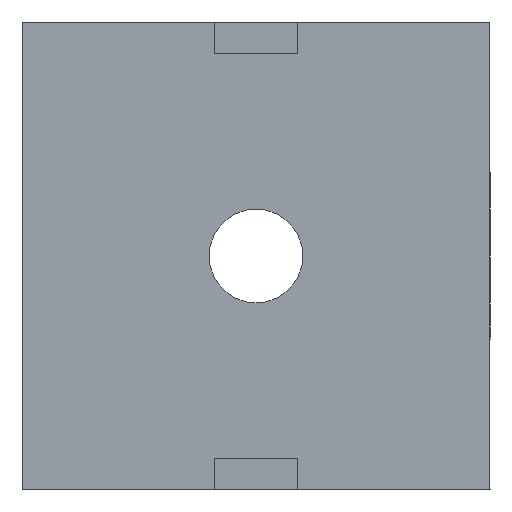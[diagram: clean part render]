
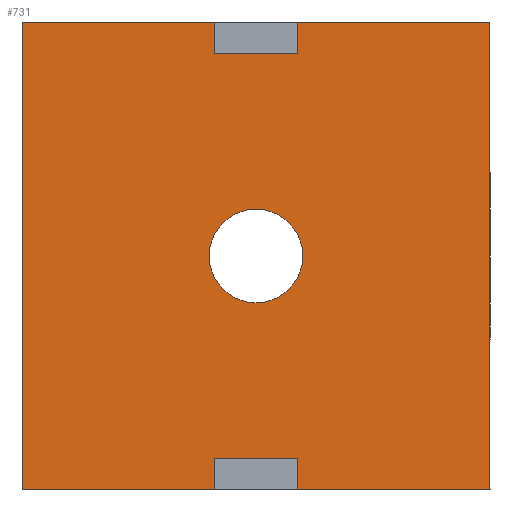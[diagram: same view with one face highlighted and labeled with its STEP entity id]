
A CAD part, front view. The second image highlights one B-rep face of the part: STEP entity #731.
In plain terms, the highlighted planar face has unit normal (0, -1, 0).
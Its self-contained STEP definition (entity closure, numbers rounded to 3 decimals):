
#448 = EDGE_CURVE ( 'NONE', #508, #511, #1732, .T. ) ;
#449 = VERTEX_POINT ( 'NONE', #1684 ) ;
#454 = VERTEX_POINT ( 'NONE', #1719 ) ;
#457 = EDGE_CURVE ( 'NONE', #449, #454, #1715, .T. ) ;
#471 = EDGE_CURVE ( 'NONE', #454, #449, #1763, .T. ) ;
#487 = VERTEX_POINT ( 'NONE', #1794 ) ;
#489 = EDGE_CURVE ( 'NONE', #490, #487, #1781, .T. ) ;
#490 = VERTEX_POINT ( 'NONE', #1783 ) ;
#508 = VERTEX_POINT ( 'NONE', #1815 ) ;
#511 = VERTEX_POINT ( 'NONE', #1809 ) ;
#520 = VERTEX_POINT ( 'NONE', #1858 ) ;
#524 = EDGE_CURVE ( 'NONE', #528, #520, #1849, .T. ) ;
#528 = VERTEX_POINT ( 'NONE', #1850 ) ;
#556 = EDGE_CURVE ( 'NONE', #581, #574, #1947, .T. ) ;
#559 = VERTEX_POINT ( 'NONE', #1948 ) ;
#574 = VERTEX_POINT ( 'NONE', #1989 ) ;
#581 = VERTEX_POINT ( 'NONE', #1973 ) ;
#585 = VERTEX_POINT ( 'NONE', #1970 ) ;
#623 = EDGE_CURVE ( 'NONE', #559, #585, #1992, .T. ) ;
#630 = VERTEX_POINT ( 'NONE', #2038 ) ;
#631 = VERTEX_POINT ( 'NONE', #2046 ) ;
#659 = EDGE_LOOP ( 'NONE', ( #661, #660, #689, #662, #718, #663, #722, #719, #724, #723, #728, #725 ) ) ;
#660 = ORIENTED_EDGE ( 'NONE', *, *, #524, .F. ) ;
#661 = ORIENTED_EDGE ( 'NONE', *, *, #672, .T. ) ;
#662 = ORIENTED_EDGE ( 'NONE', *, *, #556, .T. ) ;
#663 = ORIENTED_EDGE ( 'NONE', *, *, #623, .F. ) ;
#664 = EDGE_CURVE ( 'NONE', #490, #559, #2094, .T. ) ;
#666 = EDGE_CURVE ( 'NONE', #574, #585, #2144, .T. ) ;
#668 = EDGE_LOOP ( 'NONE', ( #674, #730 ) ) ;
#669 = EDGE_CURVE ( 'NONE', #631, #630, #2133, .T. ) ;
#672 = EDGE_CURVE ( 'NONE', #630, #520, #2125, .T. ) ;
#674 = ORIENTED_EDGE ( 'NONE', *, *, #471, .F. ) ;
#689 = ORIENTED_EDGE ( 'NONE', *, *, #732, .F. ) ;
#718 = ORIENTED_EDGE ( 'NONE', *, *, #666, .T. ) ;
#719 = ORIENTED_EDGE ( 'NONE', *, *, #489, .T. ) ;
#720 = EDGE_CURVE ( 'NONE', #487, #511, #2170, .T. ) ;
#721 = EDGE_CURVE ( 'NONE', #631, #508, #2204, .T. ) ;
#722 = ORIENTED_EDGE ( 'NONE', *, *, #664, .F. ) ;
#723 = ORIENTED_EDGE ( 'NONE', *, *, #448, .F. ) ;
#724 = ORIENTED_EDGE ( 'NONE', *, *, #720, .T. ) ;
#725 = ORIENTED_EDGE ( 'NONE', *, *, #669, .T. ) ;
#728 = ORIENTED_EDGE ( 'NONE', *, *, #721, .F. ) ;
#730 = ORIENTED_EDGE ( 'NONE', *, *, #457, .F. ) ;
#731 = ADVANCED_FACE ( 'NONE', ( #2207, #2154 ), #2199, .F. ) ;
#732 = EDGE_CURVE ( 'NONE', #581, #528, #2196, .T. ) ;
#1684 = CARTESIAN_POINT ( 'NONE',  ( -4.5, 0., 0. ) ) ;
#1715 = CIRCLE ( 'NONE', #1734, 4.5 ) ;
#1717 = CARTESIAN_POINT ( 'NONE',  ( 0., 0., 0. ) ) ;
#1719 = CARTESIAN_POINT ( 'NONE',  ( 4.5, 0., 0. ) ) ;
#1729 = DIRECTION ( 'NONE',  ( 0., 0., -1. ) ) ;
#1730 = VECTOR ( 'NONE', #1729, 1000. ) ;
#1731 = CARTESIAN_POINT ( 'NONE',  ( -4., 0., 22.5 ) ) ;
#1732 = LINE ( 'NONE', #1731, #1730 ) ;
#1734 = AXIS2_PLACEMENT_3D ( 'NONE', #1717, #1772, #1771 ) ;
#1743 = DIRECTION ( 'NONE',  ( 1., 0., 0. ) ) ;
#1750 = DIRECTION ( 'NONE',  ( 0., -1., 0. ) ) ;
#1754 = AXIS2_PLACEMENT_3D ( 'NONE', #1765, #1750, #1743 ) ;
#1763 = CIRCLE ( 'NONE', #1754, 4.5 ) ;
#1765 = CARTESIAN_POINT ( 'NONE',  ( 0., 0., 0. ) ) ;
#1771 = DIRECTION ( 'NONE',  ( 1., 0., 0. ) ) ;
#1772 = DIRECTION ( 'NONE',  ( 0., -1., 0. ) ) ;
#1779 = DIRECTION ( 'NONE',  ( 0., 0., -1. ) ) ;
#1780 = VECTOR ( 'NONE', #1779, 1000. ) ;
#1781 = LINE ( 'NONE', #1784, #1780 ) ;
#1783 = CARTESIAN_POINT ( 'NONE',  ( 4., 0., 22.5 ) ) ;
#1784 = CARTESIAN_POINT ( 'NONE',  ( 4., 0., 22.5 ) ) ;
#1794 = CARTESIAN_POINT ( 'NONE',  ( 4., 0., 19.5 ) ) ;
#1809 = CARTESIAN_POINT ( 'NONE',  ( -4., 0., 19.5 ) ) ;
#1815 = CARTESIAN_POINT ( 'NONE',  ( -4., 0., 22.5 ) ) ;
#1842 = DIRECTION ( 'NONE',  ( 0., 0., -1. ) ) ;
#1843 = VECTOR ( 'NONE', #1842, 1000. ) ;
#1844 = CARTESIAN_POINT ( 'NONE',  ( -4., 0., 22.5 ) ) ;
#1849 = LINE ( 'NONE', #1844, #1843 ) ;
#1850 = CARTESIAN_POINT ( 'NONE',  ( -4., 0., -19.5 ) ) ;
#1858 = CARTESIAN_POINT ( 'NONE',  ( -4., 0., -22.5 ) ) ;
#1944 = DIRECTION ( 'NONE',  ( 0., 0., -1. ) ) ;
#1945 = VECTOR ( 'NONE', #1944, 1000. ) ;
#1946 = CARTESIAN_POINT ( 'NONE',  ( 4., 0., 22.5 ) ) ;
#1947 = LINE ( 'NONE', #1946, #1945 ) ;
#1948 = CARTESIAN_POINT ( 'NONE',  ( 22.5, 0., 22.5 ) ) ;
#1970 = CARTESIAN_POINT ( 'NONE',  ( 22.5, 0., -22.5 ) ) ;
#1973 = CARTESIAN_POINT ( 'NONE',  ( 4., 0., -19.5 ) ) ;
#1989 = CARTESIAN_POINT ( 'NONE',  ( 4., 0., -22.5 ) ) ;
#1992 = LINE ( 'NONE', #2031, #2030 ) ;
#2029 = DIRECTION ( 'NONE',  ( 0., 0., -1. ) ) ;
#2030 = VECTOR ( 'NONE', #2029, 1000. ) ;
#2031 = CARTESIAN_POINT ( 'NONE',  ( 22.5, 0., 22.5 ) ) ;
#2038 = CARTESIAN_POINT ( 'NONE',  ( -22.5, 0., -22.5 ) ) ;
#2046 = CARTESIAN_POINT ( 'NONE',  ( -22.5, 0., 22.5 ) ) ;
#2089 = CARTESIAN_POINT ( 'NONE',  ( 4., 0., 22.5 ) ) ;
#2094 = LINE ( 'NONE', #2089, #2151 ) ;
#2121 = DIRECTION ( 'NONE',  ( 1., 0., 0. ) ) ;
#2122 = VECTOR ( 'NONE', #2121, 1000. ) ;
#2123 = CARTESIAN_POINT ( 'NONE',  ( -4., 0., -22.5 ) ) ;
#2125 = LINE ( 'NONE', #2123, #2122 ) ;
#2131 = DIRECTION ( 'NONE',  ( 0., 0., -1. ) ) ;
#2132 = VECTOR ( 'NONE', #2131, 1000. ) ;
#2133 = LINE ( 'NONE', #2148, #2132 ) ;
#2141 = DIRECTION ( 'NONE',  ( 1., 0., 0. ) ) ;
#2142 = VECTOR ( 'NONE', #2141, 1000. ) ;
#2143 = CARTESIAN_POINT ( 'NONE',  ( 4., 0., -22.5 ) ) ;
#2144 = LINE ( 'NONE', #2143, #2142 ) ;
#2148 = CARTESIAN_POINT ( 'NONE',  ( -22.5, 0., 22.5 ) ) ;
#2150 = DIRECTION ( 'NONE',  ( 1., 0., 0. ) ) ;
#2151 = VECTOR ( 'NONE', #2150, 1000. ) ;
#2153 = CARTESIAN_POINT ( 'NONE',  ( -4., 0., 22.5 ) ) ;
#2154 = FACE_OUTER_BOUND ( 'NONE', #659, .T. ) ;
#2160 = CARTESIAN_POINT ( 'NONE',  ( -4., 0., 22.5 ) ) ;
#2164 = DIRECTION ( 'NONE',  ( 0., 1., 0. ) ) ;
#2170 = LINE ( 'NONE', #2211, #2210 ) ;
#2191 = DIRECTION ( 'NONE',  ( -1., 0., 0. ) ) ;
#2192 = VECTOR ( 'NONE', #2191, 1000. ) ;
#2194 = DIRECTION ( 'NONE',  ( -1., 0., 0. ) ) ;
#2195 = CARTESIAN_POINT ( 'NONE',  ( 22.501, 0., -19.5 ) ) ;
#2196 = LINE ( 'NONE', #2195, #2192 ) ;
#2199 = PLANE ( 'NONE',  #2205 ) ;
#2201 = DIRECTION ( 'NONE',  ( 1., 0., 0. ) ) ;
#2202 = VECTOR ( 'NONE', #2201, 1000. ) ;
#2204 = LINE ( 'NONE', #2153, #2202 ) ;
#2205 = AXIS2_PLACEMENT_3D ( 'NONE', #2160, #2164, #2194 ) ;
#2206 = DIRECTION ( 'NONE',  ( -1., 0., 0. ) ) ;
#2207 = FACE_BOUND ( 'NONE', #668, .T. ) ;
#2210 = VECTOR ( 'NONE', #2206, 1000. ) ;
#2211 = CARTESIAN_POINT ( 'NONE',  ( 22.501, 0., 19.5 ) ) ;
